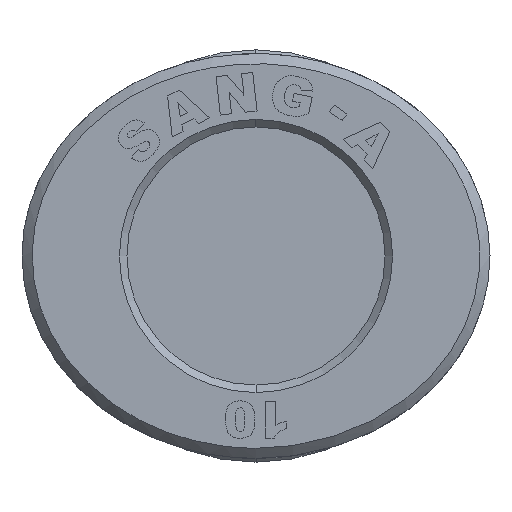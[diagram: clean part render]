
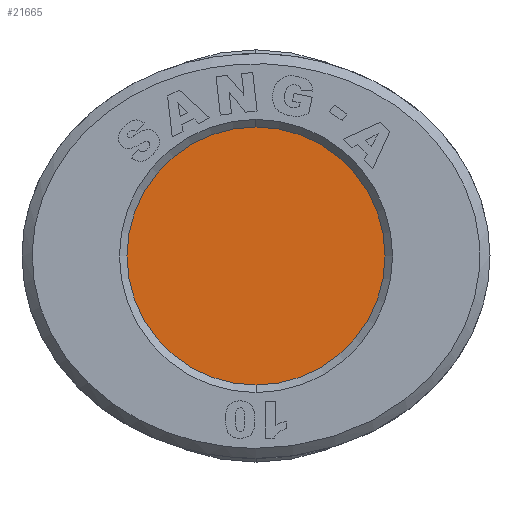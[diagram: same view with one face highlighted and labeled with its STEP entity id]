
A CAD part, left-side view. The second image highlights one B-rep face of the part: STEP entity #21665.
In plain terms, the highlighted planar face has unit normal (-1, 0, 0).
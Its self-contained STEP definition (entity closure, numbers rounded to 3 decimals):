
#601=CARTESIAN_POINT('',(-14.854,0.,5.1));
#602=VERTEX_POINT('',#601);
#611=CARTESIAN_POINT('',(-14.854,0.,-5.1));
#612=VERTEX_POINT('',#611);
#613=CARTESIAN_POINT('',(-14.854,0.,0.));
#614=DIRECTION('',(1.0,0.0,0.0));
#615=DIRECTION('',(0.0,0.0,1.0));
#616=AXIS2_PLACEMENT_3D('',#613,#614,#615);
#617=CIRCLE('',#616,5.1);
#618=EDGE_CURVE('',#602,#612,#617,.T.);
#21646=CARTESIAN_POINT('',(-14.854,0.,0.));
#21647=DIRECTION('',(1.0,0.0,0.0));
#21648=DIRECTION('',(0.0,0.0,1.0));
#21649=AXIS2_PLACEMENT_3D('',#21646,#21647,#21648);
#21650=CIRCLE('',#21649,5.1);
#21651=EDGE_CURVE('',#612,#602,#21650,.T.);
#21656=CARTESIAN_POINT('',(-14.854,0.,0.));
#21657=DIRECTION('',(1.0,0.0,0.0));
#21658=DIRECTION('',(0.0,0.0,1.0));
#21659=AXIS2_PLACEMENT_3D('',#21656,#21657,#21658);
#21660=PLANE('',#21659);
#21661=ORIENTED_EDGE('',*,*,#618,.F.);
#21662=ORIENTED_EDGE('',*,*,#21651,.F.);
#21663=EDGE_LOOP('',(#21661,#21662));
#21664=FACE_OUTER_BOUND('',#21663,.T.);
#21665=ADVANCED_FACE('',(#21664),#21660,.F.);
